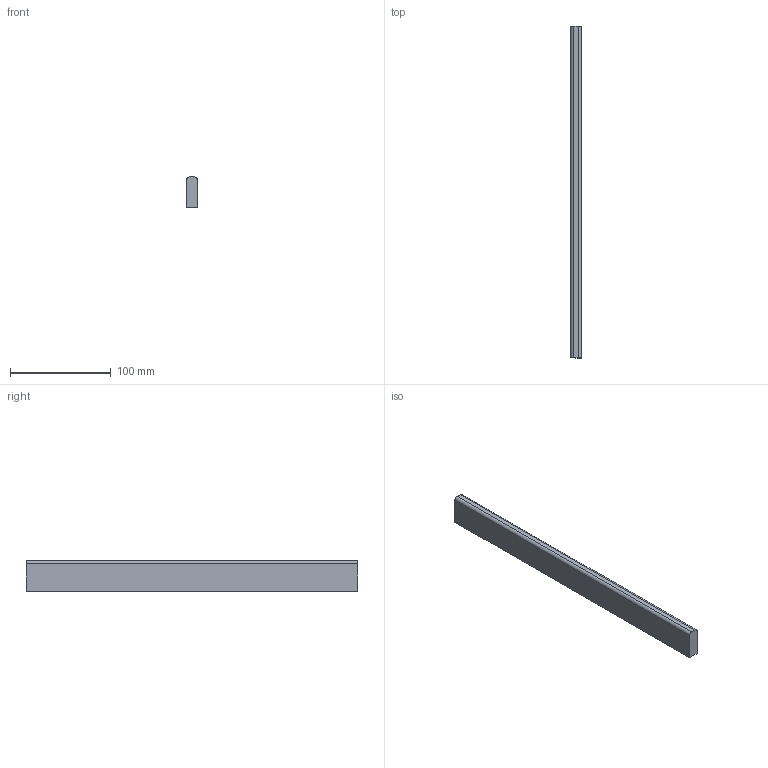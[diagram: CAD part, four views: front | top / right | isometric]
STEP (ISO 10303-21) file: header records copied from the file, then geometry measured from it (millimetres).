
FILE_DESCRIPTION (( 'STEP AP214' ), '1' );
FILE_NAME ('_Seitenreling_SP60701200_RL330.step', '2010-09-06T14:51:39', ( 'grass' ), ( '' ), 'SwSTEP 2.0', 'SolidWorks 2010', '' );
FILE_SCHEMA (( 'AUTOMOTIVE_DESIGN' ));
Length unit declared in the file: millimetre
Products named in the file (1): _Seitenreling_SP60701200_RL330
Bounding box: 10.5 x 330 x 30 mm (x, y, z)
Volume: 102675.3 mm3; surface area: 26502.5 mm2
Topology: 1 solids, 1 shells, 8 faces, 18 edges, 12 vertices
Faces by surface type: plane 6, cylinder 2
Entity records: 260 total; most frequent: DIRECTION 40, CARTESIAN_POINT 39, ORIENTED_EDGE 36, EDGE_CURVE 18, LINE 14, VECTOR 14, AXIS2_PLACEMENT_3D 13, VERTEX_POINT 12
